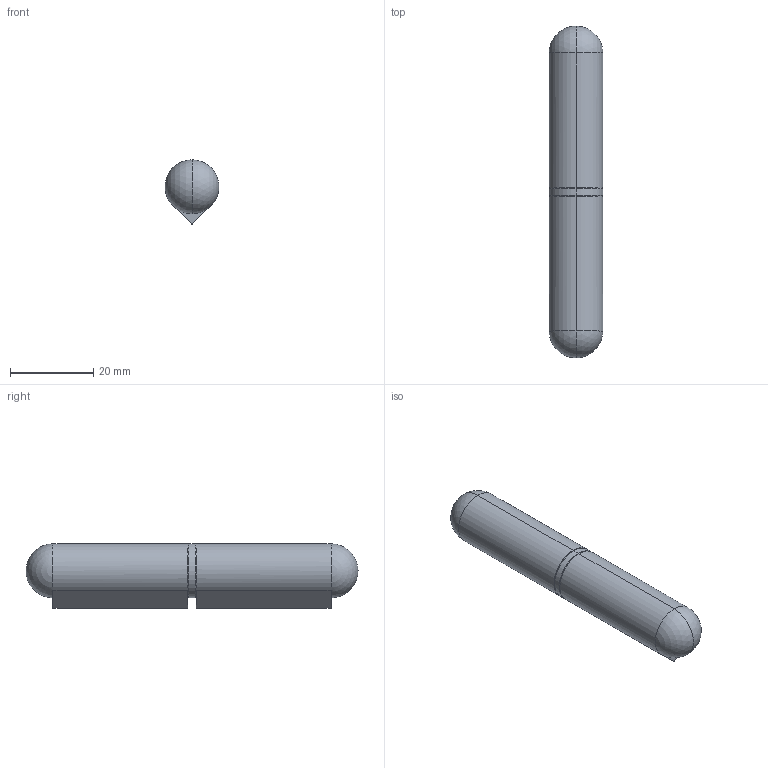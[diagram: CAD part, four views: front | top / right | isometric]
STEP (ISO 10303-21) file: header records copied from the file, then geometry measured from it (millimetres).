
FILE_DESCRIPTION (( 'STEP AP214' ), '1' );
FILE_NAME ('7011.00.080.STEP', '2021-01-21T03:33:17', ( '' ), ( '' ), 'SwSTEP 2.0', 'SolidWorks 2018', '' );
FILE_SCHEMA (( 'AUTOMOTIVE_DESIGN' ));
Length unit declared in the file: millimetre
Products named in the file (4): 7011.00-3_7011.00.080; 7011.00-1_7004.00.080; 7011.00-2_7011.00.080; 7011.00.080
Assembly tree (4 placements, depth 2):
  7011.00.080
    7011.00-1_7004.00.080  x2
    7011.00-2_7011.00.080
    7011.00-3_7011.00.080
Bounding box: 13 x 80 x 15.5 mm (x, y, z)
Volume: 10428.6 mm3; surface area: 6692.7 mm2
Topology: 4 solids, 4 shells, 45 faces, 104 edges, 63 vertices
Faces by surface type: cylinder 18, plane 13, torus 8, sphere 6
Entity records: 1100 total; most frequent: DIRECTION 188, CARTESIAN_POINT 142, ORIENTED_EDGE 128, AXIS2_PLACEMENT_3D 85, EDGE_CURVE 64, CIRCLE 46, VERTEX_POINT 39, EDGE_LOOP 35
